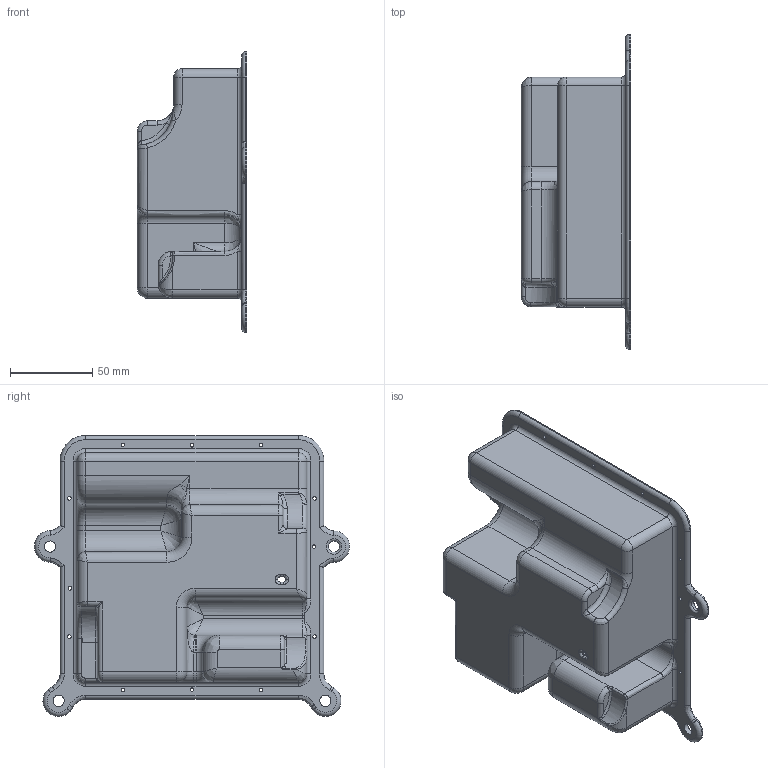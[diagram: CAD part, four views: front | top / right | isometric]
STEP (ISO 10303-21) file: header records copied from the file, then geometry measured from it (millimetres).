
FILE_DESCRIPTION(/* description */ (''),/* implementation_level */ '2;1');
FILE_NAME(/* name */ 'TB 4-Pack Enclosure- Amp Cover.step',/* time_stamp */ '2026-01-13T13:10:11-05:00',/* author */ (''),/* organization */ (''),/* preprocessor_version */ 'ST-DEVELOPER v20.1',/* originating_system */ 'Autodesk Translation Framework v14.21.0.0',/* authorisation */ '');
FILE_SCHEMA (('AUTOMOTIVE_DESIGN { 1 0 10303 214 3 1 1 }','FEATURE_BASED_PROCESS_PLANNING','AP242_MANAGED_MODEL_BASED_3D_ENGINEERING_MIM_LF { 1 0 10303 442 3 1 4 }'));
Length unit declared in the file: inch
Products named in the file (1): MicroSub Tang Band Buyouts and SA25
Bounding box: 66.67 x 191.72 x 170.93 mm (x, y, z)
Volume: 209378.2 mm3; surface area: 132360.8 mm2
Topology: 1 solids, 1 shells, 418 faces, 1022 edges, 580 vertices
Faces by surface type: cylinder 167, bspline 116, torus 66, plane 62, sphere 7
Full cylindrical faces by diameter (mm): 2.184 x12, 6.858 x4
Entity records: 18236 total; most frequent: CARTESIAN_POINT 9087, ORIENTED_EDGE 1988, DIRECTION 1778, EDGE_CURVE 994, AXIS2_PLACEMENT_3D 717, VERTEX_POINT 580, EDGE_LOOP 454, FACE_OUTER_BOUND 418
